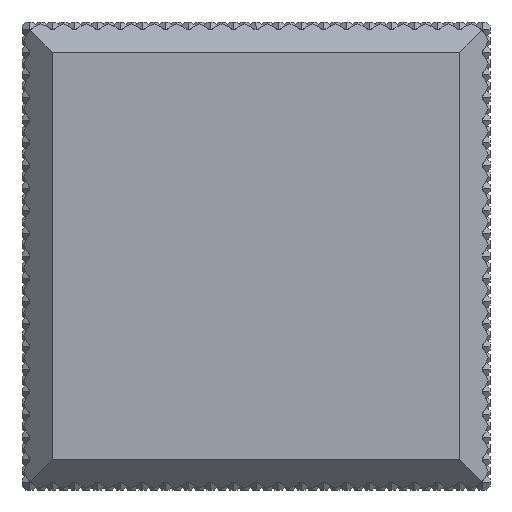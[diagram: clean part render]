
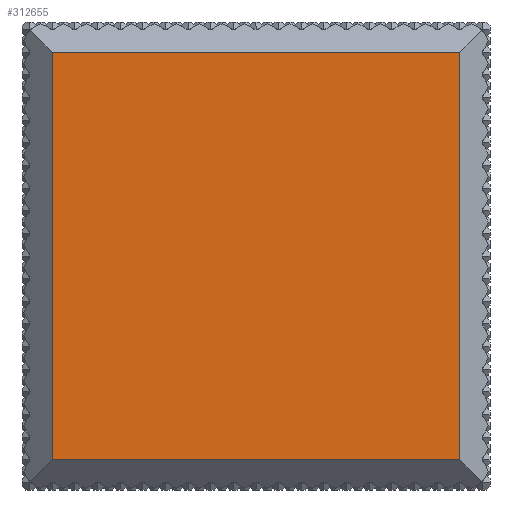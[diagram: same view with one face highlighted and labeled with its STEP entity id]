
A CAD part, front view. The second image highlights one B-rep face of the part: STEP entity #312655.
In plain terms, the highlighted planar face has unit normal (0, -1, 0).
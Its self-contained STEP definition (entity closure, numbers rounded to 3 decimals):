
#197=FACE_OUTER_BOUND('',#22469,.T.);
#22469=EDGE_LOOP('',(#201603,#201604,#201605,#201606));
#44774=LINE('',#446576,#89426);
#44776=LINE('',#446582,#89428);
#44858=LINE('',#446744,#89510);
#45201=LINE('',#447430,#89853);
#89426=VECTOR('',#357300,10.);
#89428=VECTOR('',#357304,10.);
#89510=VECTOR('',#357388,10.);
#89853=VECTOR('',#357781,10.);
#134025=VERTEX_POINT('',#446492);
#134066=VERTEX_POINT('',#446574);
#134067=VERTEX_POINT('',#446578);
#134069=VERTEX_POINT('',#446581);
#156462=EDGE_CURVE('',#134025,#134066,#44774,.T.);
#156464=EDGE_CURVE('',#134069,#134067,#44776,.T.);
#156546=EDGE_CURVE('',#134066,#134069,#44858,.T.);
#156889=EDGE_CURVE('',#134067,#134025,#45201,.T.);
#201603=ORIENTED_EDGE('',*,*,#156462,.T.);
#201604=ORIENTED_EDGE('',*,*,#156546,.T.);
#201605=ORIENTED_EDGE('',*,*,#156464,.T.);
#201606=ORIENTED_EDGE('',*,*,#156889,.T.);
#290384=PLANE('',#334949);
#312655=ADVANCED_FACE('',(#197),#290384,.F.);
#334949=AXIS2_PLACEMENT_3D('',#447429,#357779,#357780);
#357300=DIRECTION('',(0.,0.,-1.));
#357304=DIRECTION('',(0.,0.,1.));
#357388=DIRECTION('',(1.,0.,0.));
#357779=DIRECTION('center_axis',(0.,1.,0.));
#357780=DIRECTION('ref_axis',(0.,0.,1.));
#357781=DIRECTION('',(-1.,0.,0.));
#446492=CARTESIAN_POINT('',(-27.,0.,27.));
#446574=CARTESIAN_POINT('',(-27.,0.,-27.));
#446576=CARTESIAN_POINT('',(-27.,0.,0.));
#446578=CARTESIAN_POINT('',(27.,0.,27.));
#446581=CARTESIAN_POINT('',(27.,0.,-27.));
#446582=CARTESIAN_POINT('',(27.,0.,0.));
#446744=CARTESIAN_POINT('',(0.,0.,-27.));
#447429=CARTESIAN_POINT('Origin',(0.,0.,0.));
#447430=CARTESIAN_POINT('',(0.,0.,27.));
